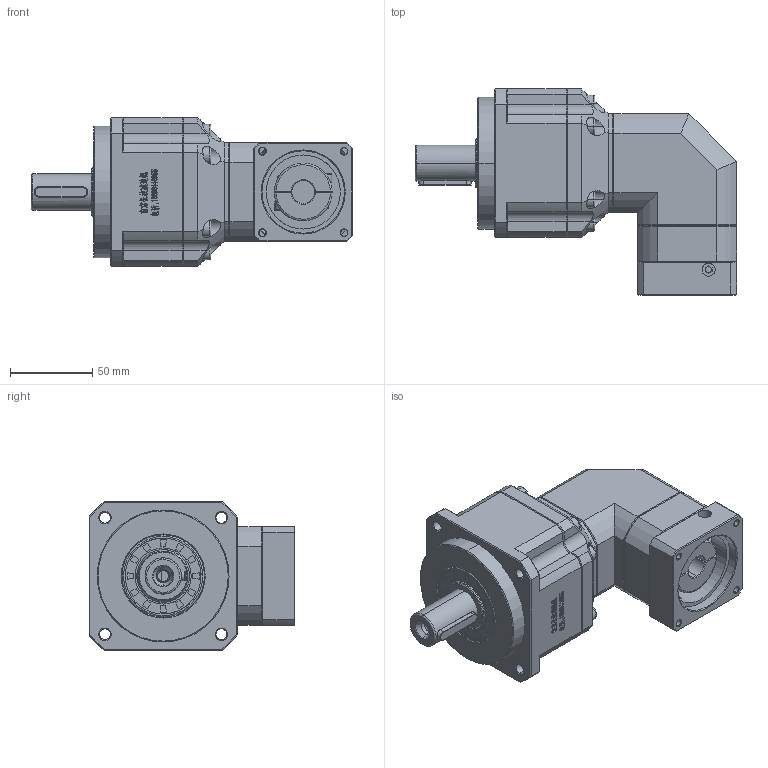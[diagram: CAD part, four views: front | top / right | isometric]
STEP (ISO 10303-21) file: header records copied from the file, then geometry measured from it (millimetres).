
FILE_DESCRIPTION (( 'STEP AP214' ), '1' );
FILE_NAME ('ZPBR090-D22-L2-P1-14-50-70-M5.step', '2024-06-07T18:35:21', ( 'Windows 蚚誧' ), ( 'Organization' ), 'SwSTEP 2.0', 'SolidWorks 2016', '' );
FILE_SCHEMA (( 'AUTOMOTIVE_DESIGN' ));
Length unit declared in the file: millimetre
Products named in the file (1): ZPBR090-D22-L2-P1-14-50-70-M5
Bounding box: 195 x 125 x 90 mm (x, y, z)
Surface area: 87652.3 mm2 (no closed solid volume)
Topology: 0 solids, 30 shells, 2020 faces, 5373 edges, 3439 vertices
Faces by surface type: plane 1083, bspline 371, cylinder 285, cone 254, torus 27
Entity records: 97427 total; most frequent: CARTESIAN_POINT 46354, ORIENTED_EDGE 10708, DIRECTION 8049, EDGE_CURVE 5373, VERTEX_POINT 3439, VECTOR 3377, LINE 3377, AXIS2_PLACEMENT_3D 2336
